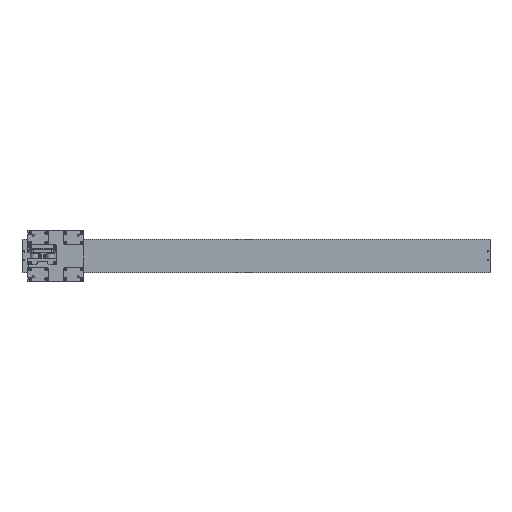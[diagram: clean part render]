
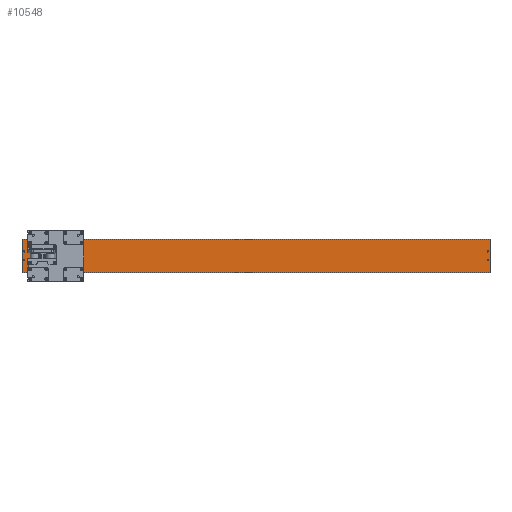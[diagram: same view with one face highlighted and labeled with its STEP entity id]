
A CAD part, top view. The second image highlights one B-rep face of the part: STEP entity #10548.
In plain terms, the highlighted planar face has unit normal (0, 0, 1).
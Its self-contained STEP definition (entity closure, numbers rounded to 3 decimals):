
#260=FACE_BOUND('',#1287,.T.);
#261=FACE_BOUND('',#1288,.T.);
#262=FACE_BOUND('',#1289,.T.);
#263=FACE_BOUND('',#1290,.T.);
#452=PLANE('',#11191);
#686=FACE_OUTER_BOUND('',#1286,.T.);
#1286=EDGE_LOOP('',(#7053,#7054,#7055,#7056));
#1287=EDGE_LOOP('',(#7057));
#1288=EDGE_LOOP('',(#7058));
#1289=EDGE_LOOP('',(#7059));
#1290=EDGE_LOOP('',(#7060));
#2070=LINE('',#15633,#2913);
#2074=LINE('',#15641,#2917);
#2077=LINE('',#15647,#2920);
#2080=LINE('',#15652,#2923);
#2913=VECTOR('',#12402,10.);
#2917=VECTOR('',#12408,10.);
#2920=VECTOR('',#12413,10.);
#2923=VECTOR('',#12418,10.);
#3752=CIRCLE('',#11176,1.25);
#3754=CIRCLE('',#11179,1.25);
#3756=CIRCLE('',#11182,1.25);
#3758=CIRCLE('',#11185,1.25);
#4369=VERTEX_POINT('',#15607);
#4371=VERTEX_POINT('',#15613);
#4373=VERTEX_POINT('',#15619);
#4375=VERTEX_POINT('',#15625);
#4377=VERTEX_POINT('',#15631);
#4378=VERTEX_POINT('',#15632);
#4381=VERTEX_POINT('',#15640);
#4383=VERTEX_POINT('',#15646);
#5417=EDGE_CURVE('',#4369,#4369,#3752,.T.);
#5420=EDGE_CURVE('',#4371,#4371,#3754,.T.);
#5423=EDGE_CURVE('',#4373,#4373,#3756,.T.);
#5426=EDGE_CURVE('',#4375,#4375,#3758,.T.);
#5429=EDGE_CURVE('',#4377,#4378,#2070,.T.);
#5433=EDGE_CURVE('',#4378,#4381,#2074,.T.);
#5436=EDGE_CURVE('',#4381,#4383,#2077,.T.);
#5439=EDGE_CURVE('',#4383,#4377,#2080,.T.);
#7053=ORIENTED_EDGE('',*,*,#5439,.T.);
#7054=ORIENTED_EDGE('',*,*,#5429,.T.);
#7055=ORIENTED_EDGE('',*,*,#5433,.T.);
#7056=ORIENTED_EDGE('',*,*,#5436,.T.);
#7057=ORIENTED_EDGE('',*,*,#5417,.T.);
#7058=ORIENTED_EDGE('',*,*,#5420,.T.);
#7059=ORIENTED_EDGE('',*,*,#5423,.T.);
#7060=ORIENTED_EDGE('',*,*,#5426,.T.);
#10548=ADVANCED_FACE('',(#686,#260,#261,#262,#263),#452,.T.);
#11176=AXIS2_PLACEMENT_3D('',#15608,#12374,#12375);
#11179=AXIS2_PLACEMENT_3D('',#15614,#12381,#12382);
#11182=AXIS2_PLACEMENT_3D('',#15620,#12388,#12389);
#11185=AXIS2_PLACEMENT_3D('',#15626,#12395,#12396);
#11191=AXIS2_PLACEMENT_3D('',#15654,#12420,#12421);
#12374=DIRECTION('center_axis',(0.,0.,-1.));
#12375=DIRECTION('ref_axis',(-1.,0.,0.));
#12381=DIRECTION('center_axis',(0.,0.,-1.));
#12382=DIRECTION('ref_axis',(-1.,0.,0.));
#12388=DIRECTION('center_axis',(0.,0.,-1.));
#12389=DIRECTION('ref_axis',(-1.,0.,0.));
#12395=DIRECTION('center_axis',(0.,0.,-1.));
#12396=DIRECTION('ref_axis',(-1.,0.,0.));
#12402=DIRECTION('',(1.,0.,0.));
#12408=DIRECTION('',(0.,1.,0.));
#12413=DIRECTION('',(-1.,0.,0.));
#12418=DIRECTION('',(0.,-1.,0.));
#12420=DIRECTION('center_axis',(0.,0.,1.));
#12421=DIRECTION('ref_axis',(1.,0.,0.));
#15607=CARTESIAN_POINT('',(914.9,24.5,0.));
#15608=CARTESIAN_POINT('Origin',(913.65,24.5,0.));
#15613=CARTESIAN_POINT('',(5.75,41.5,0.));
#15614=CARTESIAN_POINT('Origin',(4.5,41.5,0.));
#15619=CARTESIAN_POINT('',(914.9,41.5,0.));
#15620=CARTESIAN_POINT('Origin',(913.65,41.5,0.));
#15625=CARTESIAN_POINT('',(5.75,24.5,0.));
#15626=CARTESIAN_POINT('Origin',(4.5,24.5,0.));
#15631=CARTESIAN_POINT('',(0.,0.,0.));
#15632=CARTESIAN_POINT('',(918.15,0.,0.));
#15633=CARTESIAN_POINT('',(0.,0.,0.));
#15640=CARTESIAN_POINT('',(918.15,65.,0.));
#15641=CARTESIAN_POINT('',(918.15,0.,0.));
#15646=CARTESIAN_POINT('',(0.,65.,0.));
#15647=CARTESIAN_POINT('',(918.15,65.,0.));
#15652=CARTESIAN_POINT('',(0.,65.,0.));
#15654=CARTESIAN_POINT('Origin',(459.075,32.5,0.));
